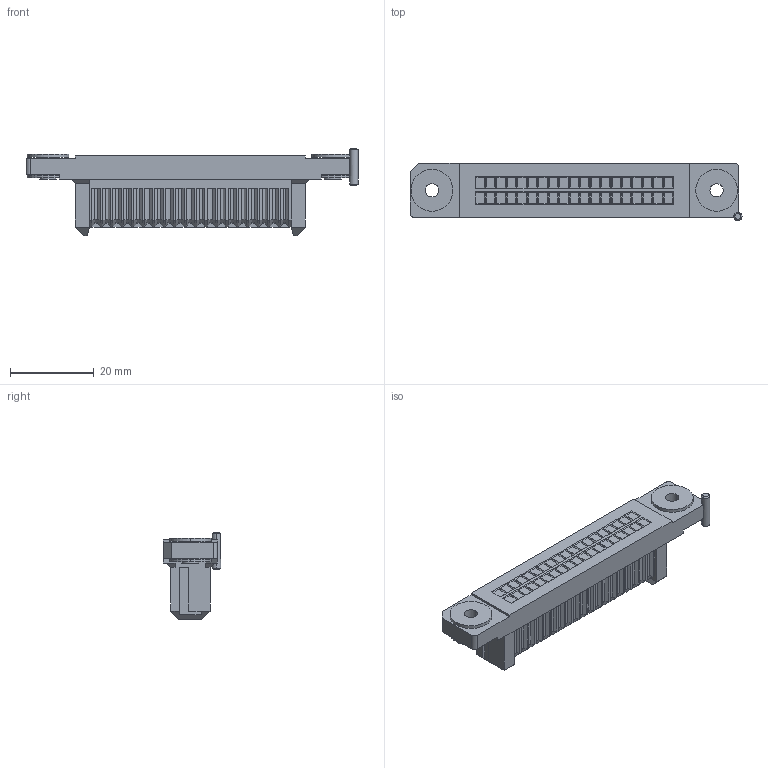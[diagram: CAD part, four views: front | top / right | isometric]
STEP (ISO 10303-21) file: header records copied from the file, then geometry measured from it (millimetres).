
FILE_DESCRIPTION(('CoCreate Modeling STEP Export'),'2;1');
FILE_NAME('P3A947_FA01-038.stp','2017-07-27T12:02:22',(''),(''),'CoCreate Modeling STEP processor for AP214 (Solid Model)','CoCreate Modeling 17.0B 09-Oct-2010 (C) Parametric Technology GmbH','');
FILE_SCHEMA(('AUTOMOTIVE_DESIGN { 1 0 10303 214 1 1 1 1 }'));
Length unit declared in the file: millimetre
Products named in the file (2): FA01-038
Assembly tree (1 placements, depth 2):
  FA01-038
    FA01-038
Bounding box: 79.3 x 13.7 x 20.8 mm (x, y, z)
Volume: 9991.7 mm3; surface area: 5521.9 mm2
Topology: 1 solids, 1 shells, 757 faces, 1794 edges, 1087 vertices
Faces by surface type: plane 725, cylinder 28, cone 4
Entity records: 20830 total; most frequent: CARTESIAN_POINT 3603, ORIENTED_EDGE 3588, DIRECTION 3308, EDGE_CURVE 1794, VECTOR 1724, LINE 1724, VERTEX_POINT 1087, EDGE_LOOP 809
